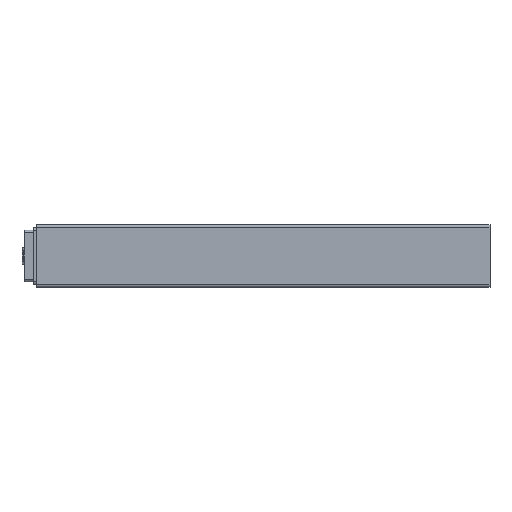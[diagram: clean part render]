
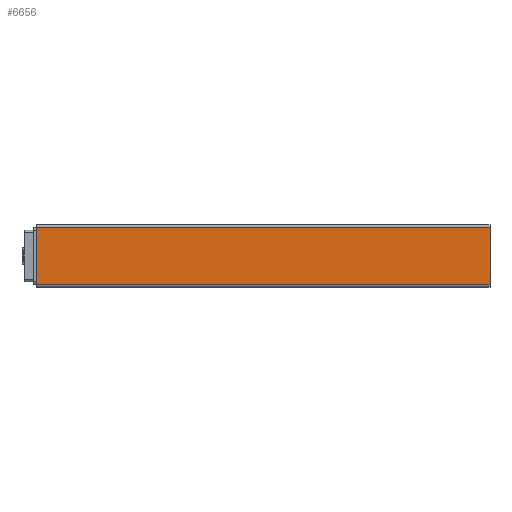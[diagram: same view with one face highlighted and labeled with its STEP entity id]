
A CAD part, left-side view. The second image highlights one B-rep face of the part: STEP entity #6656.
In plain terms, the highlighted planar face has unit normal (-1, 0, 0).
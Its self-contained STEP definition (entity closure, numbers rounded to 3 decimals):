
#136=DIRECTION('',(0.,1.,0.));
#137=VECTOR('',#136,504.);
#138=CARTESIAN_POINT('',(-35.,0.,32.));
#139=LINE('',#138,#137);
#144=DIRECTION('',(0.,0.,-1.));
#145=VECTOR('',#144,64.);
#146=CARTESIAN_POINT('',(-35.,0.,32.));
#147=LINE('',#146,#145);
#152=DIRECTION('',(0.,-1.,0.));
#153=VECTOR('',#152,504.);
#154=CARTESIAN_POINT('',(-35.,504.,-32.));
#155=LINE('',#154,#153);
#312=DIRECTION('',(0.,0.,-1.));
#313=VECTOR('',#312,64.);
#314=CARTESIAN_POINT('',(-35.,504.,32.));
#315=LINE('',#314,#313);
#5320=CARTESIAN_POINT('',(-35.,0.,-32.));
#5321=VERTEX_POINT('',#5320);
#5322=CARTESIAN_POINT('',(-35.,0.,32.));
#5323=VERTEX_POINT('',#5322);
#5981=CARTESIAN_POINT('',(-35.,504.,32.));
#5982=VERTEX_POINT('',#5981);
#5983=CARTESIAN_POINT('',(-35.,504.,-32.));
#5984=VERTEX_POINT('',#5983);
#6643=CARTESIAN_POINT('',(-35.,0.,-32.));
#6644=DIRECTION('',(-1.,0.,0.));
#6645=DIRECTION('',(0.,0.,1.));
#6646=AXIS2_PLACEMENT_3D('',#6643,#6644,#6645);
#6647=PLANE('',#6646);
#6648=ORIENTED_EDGE('',*,*,#6557,.T.);
#6650=ORIENTED_EDGE('',*,*,#6649,.F.);
#6652=ORIENTED_EDGE('',*,*,#6651,.F.);
#6653=ORIENTED_EDGE('',*,*,#6635,.F.);
#6654=EDGE_LOOP('',(#6648,#6650,#6652,#6653));
#6655=FACE_OUTER_BOUND('',#6654,.F.);
#6656=ADVANCED_FACE('',(#6655),#6647,.T.);
#6557=EDGE_CURVE('',#5323,#5321,#147,.T.);
#6635=EDGE_CURVE('',#5323,#5982,#139,.T.);
#6649=EDGE_CURVE('',#5984,#5321,#155,.T.);
#6651=EDGE_CURVE('',#5982,#5984,#315,.T.);
